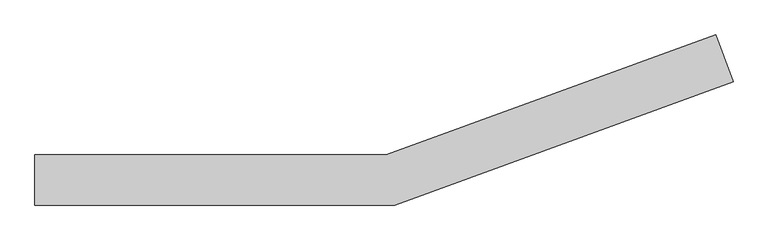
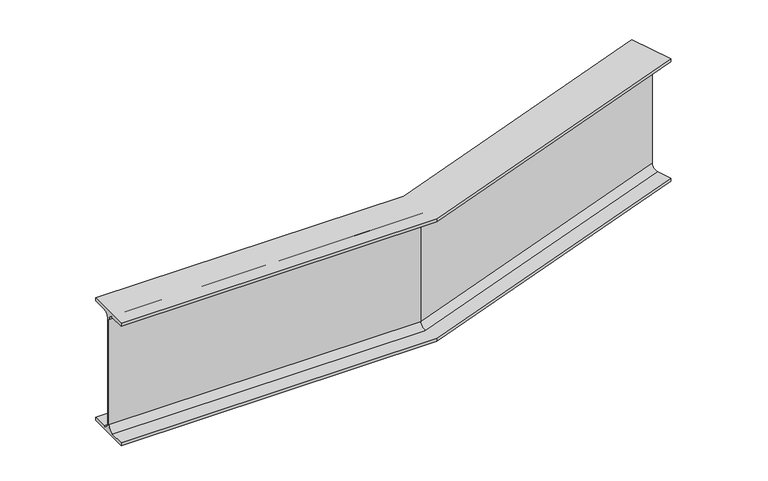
"""IFC4 building model written with IfcOpenShell, lengths in millimetres: beam geometry, Cranked Beam B3 : Cranked Beam B1."""

from ifc_helpers import new_model, si_unit, frame, origin, place, context, project, spatial, polyline, circle_curve, ellipse_curve, source, transform, mapped, element, save
from ifc_brep_helpers import plane_surface, revolved_surface, advanced_brep


def beam_fb4f222d(model_context):
    return source(origin(), model_context, "Body", "AdvancedBrep", [
        advanced_brep(
        [(30484.4500022, 15287.0000005, 11261.0), (30484.4500022, 15338.3000005, 11261.0), (30484.4500022, 15359.4000005, 11282.1), (30484.4500022, 15359.4000005, 11667.9), (30484.4500022, 15338.3000005, 11689.0), (30484.4500022, 15287.0000005, 11689.0), (30484.4500022, 15287.0000005, 11699.9), (30484.4500022, 15439.4000005, 11699.9), (30484.4500022, 15439.4000005, 11689.0), (30484.4500022, 15388.1000005, 11689.0), (30484.4500022, 15367.0000005, 11667.9), (30484.4500022, 15367.0000005, 11282.1), (30484.4500022, 15388.1000005, 11261.0), (30484.4500022, 15439.4000005, 11261.0), (30484.4500022, 15439.4000005, 11250.1), (30484.4500022, 15287.0000005, 11250.1), (31580.7314082, 15287.0000005, 11261.0), (32610.8989551, 15661.9503238, 11261.0), (32593.3533217, 15710.1565552, 11261.0), (31571.6858341, 15338.3000005, 11261.0), (31567.9653348, 15359.4000005, 11282.1), (31567.9653348, 15359.4000005, 11667.9), (31571.6858341, 15338.3000005, 11689.0), (32593.3533217, 15710.1565552, 11689.0), (32610.8989551, 15661.9503238, 11689.0), (31580.7314082, 15287.0000005, 11689.0), (31580.7314082, 15287.0000005, 11699.9), (32610.8989551, 15661.9503238, 11699.9), (32558.7750852, 15805.1594792, 11699.9), (31553.8591764, 15439.4000005, 11699.9), (31553.8591764, 15439.4000005, 11689.0), (32558.7750852, 15805.1594792, 11689.0), (32576.3207186, 15756.9532478, 11689.0), (31562.9047505, 15388.1000005, 11689.0), (31566.6252498, 15367.0000005, 11667.9), (31566.6252498, 15367.0000005, 11282.1), (31562.9047505, 15388.1000005, 11261.0), (32576.3207186, 15756.9532478, 11261.0), (32558.7750852, 15805.1594792, 11261.0), (31553.8591764, 15439.4000005, 11261.0), (31553.8591764, 15439.4000005, 11250.1), (32558.7750852, 15805.1594792, 11250.1), (32610.8989551, 15661.9503238, 11250.1), (31580.7314082, 15287.0000005, 11250.1), (32583.5373436, 15737.1257335, 11282.1), (32583.5373436, 15737.1257335, 11667.9), (32586.1366967, 15729.9840695, 11667.9), (32586.1366967, 15729.9840695, 11282.1)],
        [
            (0, 1),
            (1, 2, circle_curve(frame((30484.4500022, 15338.3000005, 11282.1), z_axis=(1.0, 0.0, 0.0), x_axis=(0.0, 1.0, 0.0)), 21.1)),
            (2, 3),
            (3, 4, circle_curve(frame((30484.4500022, 15338.3000005, 11667.9), z_axis=(1.0, 0.0, 0.0), x_axis=(0.0, 1.0, 0.0)), 21.1)),
            (4, 5),
            (5, 6),
            (6, 7),
            (7, 8),
            (8, 9),
            (9, 10, circle_curve(frame((30484.4500022, 15388.1000005, 11667.9), z_axis=(1.0, 0.0, 0.0), x_axis=(0.0, 1.0, 0.0)), 21.1)),
            (10, 11),
            (11, 12, circle_curve(frame((30484.4500022, 15388.1000005, 11282.1), z_axis=(1.0, 0.0, 0.0), x_axis=(0.0, 1.0, 0.0)), 21.1)),
            (12, 13),
            (13, 14),
            (14, 15),
            (15, 0),
            (0, 16),
            (16, 17),
            (17, 18),
            (18, 19),
            (19, 1),
            (19, 20, ellipse_curve(frame((31571.6858341, 15338.3000005, 11282.1), z_axis=(0.9848077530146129, 0.17364817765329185, 0.0), x_axis=(0.17364817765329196, -0.984807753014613, 0.0)), 21.4255015, 21.1)),
            (20, 2),
            (20, 21),
            (21, 3),
            (21, 22, ellipse_curve(frame((31571.6858341, 15338.3000005, 11667.9), z_axis=(0.9848077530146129, 0.17364817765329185, 0.0), x_axis=(0.17364817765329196, -0.984807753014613, 0.0)), 21.4255015, 21.1)),
            (22, 4),
            (22, 23),
            (23, 24),
            (24, 25),
            (25, 5),
            (25, 26),
            (26, 6),
            (26, 27),
            (27, 28),
            (28, 29),
            (29, 7),
            (29, 30),
            (30, 8),
            (30, 31),
            (31, 32),
            (32, 33),
            (33, 9),
            (33, 34, ellipse_curve(frame((31562.9047505, 15388.1000005, 11667.9), z_axis=(0.9848077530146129, 0.17364817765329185, 0.0), x_axis=(0.17364817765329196, -0.984807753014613, 0.0)), 21.4255015, 21.1)),
            (34, 10),
            (34, 35),
            (35, 11),
            (35, 36, ellipse_curve(frame((31562.9047505, 15388.1000005, 11282.1), z_axis=(0.9848077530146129, 0.17364817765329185, 0.0), x_axis=(0.17364817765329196, -0.984807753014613, 0.0)), 21.4255015, 21.1)),
            (36, 12),
            (36, 37),
            (37, 38),
            (38, 39),
            (39, 13),
            (39, 40),
            (40, 14),
            (40, 41),
            (41, 42),
            (42, 43),
            (43, 15),
            (43, 16),
            (17, 42),
            (41, 38),
            (37, 44, circle_curve(frame((32576.3207186, 15756.9532478, 11282.1), z_axis=(-0.9396926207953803, -0.34202014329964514, 0.0), x_axis=(-0.34202014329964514, 0.9396926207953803, 0.0)), 21.1)),
            (44, 45),
            (45, 32, circle_curve(frame((32576.3207186, 15756.9532478, 11667.9), z_axis=(-0.9396926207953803, -0.34202014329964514, 0.0), x_axis=(-0.34202014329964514, 0.9396926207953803, 0.0)), 21.1)),
            (31, 28),
            (27, 24),
            (23, 46, circle_curve(frame((32593.3533217, 15710.1565552, 11667.9), z_axis=(-0.9396926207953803, -0.34202014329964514, 0.0), x_axis=(-0.34202014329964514, 0.9396926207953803, 0.0)), 21.1)),
            (46, 47),
            (47, 18, circle_curve(frame((32593.3533217, 15710.1565552, 11282.1), z_axis=(-0.9396926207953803, -0.34202014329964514, 0.0), x_axis=(-0.34202014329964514, 0.9396926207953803, 0.0)), 21.1)),
            (47, 20),
            (46, 21),
            (45, 34),
            (44, 35),
        ],
        [
            plane_surface(frame((30484.4500022, 15363.2000005, 11700.0), z_axis=(-1.0, 0.0, 0.0), x_axis=(0.0, 0.0, 1.0))),
            plane_surface(frame((30484.4500022, 15287.0000005, 11261.0), z_axis=(0.0, 0.0, 1.0), x_axis=(1.0, 0.0, 0.0))),
            revolved_surface(polyline([(31575.406333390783, 15359.4000005, 11282.1), (30484.4500022, 15359.4000005, 11282.1)]), (30484.4500022, 15338.3000005, 11282.1), (1.0, 0.0, 0.0)),
            plane_surface(frame((30484.4500022, 15359.4000005, 11282.1), z_axis=(0.0, -1.0, 0.0), x_axis=(1.0, 0.0, 0.0))),
            revolved_surface(polyline([(31575.406333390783, 15359.4000005, 11667.9), (30484.4500022, 15359.4000005, 11667.9)]), (30484.4500022, 15338.3000005, 11667.9), (1.0, 0.0, 0.0)),
            plane_surface(frame((30484.4500022, 15338.3000005, 11689.0), z_axis=(0.0, 0.0, -1.0), x_axis=(1.0, 0.0, 0.0))),
            plane_surface(frame((30484.4500022, 15287.0000005, 11689.0), z_axis=(0.0, -1.0, 0.0), x_axis=(1.0, 0.0, 0.0))),
            plane_surface(frame((30484.4500022, 15287.0000005, 11699.9), z_axis=(0.0, 0.0, 1.0), x_axis=(1.0, 0.0, 0.0))),
            plane_surface(frame((30484.4500022, 15439.4000005, 11699.9), z_axis=(0.0, 1.0, 0.0), x_axis=(1.0, 0.0, 0.0))),
            plane_surface(frame((30484.4500022, 15439.4000005, 11689.0), z_axis=(0.0, 0.0, -1.0), x_axis=(1.0, 0.0, 0.0))),
            revolved_surface(polyline([(31566.6252498, 15409.2000005, 11667.9), (30484.4500022, 15409.2000005, 11667.9)]), (30484.4500022, 15388.1000005, 11667.9), (1.0, 0.0, 0.0)),
            plane_surface(frame((30484.4500022, 15367.0000005, 11667.9), z_axis=(0.0, 1.0, 0.0), x_axis=(1.0, 0.0, 0.0))),
            revolved_surface(polyline([(31566.6252498, 15409.2000005, 11282.1), (30484.4500022, 15409.2000005, 11282.1)]), (30484.4500022, 15388.1000005, 11282.1), (1.0, 0.0, 0.0)),
            plane_surface(frame((30484.4500022, 15388.1000005, 11261.0), z_axis=(0.0, 0.0, 1.0), x_axis=(1.0, 0.0, 0.0))),
            plane_surface(frame((30484.4500022, 15439.4000005, 11261.0), z_axis=(0.0, 1.0, 0.0), x_axis=(1.0, 0.0, 0.0))),
            plane_surface(frame((30484.4500022, 15439.4000005, 11250.1), z_axis=(0.0, 0.0, -1.0), x_axis=(1.0, 0.0, 0.0))),
            plane_surface(frame((30484.4500022, 15287.0000005, 11250.1), z_axis=(0.0, -1.0, 0.0), x_axis=(1.0, 0.0, 0.0))),
            plane_surface(frame((32584.8370201, 15733.5549015, 11700.0), z_axis=(0.9396926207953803, 0.34202014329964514, 0.0), x_axis=(0.0, 0.0, 1.0))),
            revolved_surface(polyline([(32586.136696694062, 15729.98406951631, 11282.1), (31560.973083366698, 15356.855029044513, 11282.1)]), (31575.8115939, 15339.8016542, 11282.1), (0.9396926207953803, 0.34202014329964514, 0.0)),
            plane_surface(frame((31567.9653348, 15359.4000005, 11282.1), z_axis=(0.34202014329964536, -0.9396926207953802, 0.0), x_axis=(0.9396926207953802, 0.34202014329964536, 0.0))),
            revolved_surface(polyline([(32586.136696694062, 15729.98406951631, 11667.9), (31560.973083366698, 15356.855029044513, 11667.9)]), (31575.8115939, 15339.8016542, 11667.9), (0.9396926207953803, 0.34202014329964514, 0.0)),
            plane_surface(frame((31580.7314082, 15287.0000005, 11689.0), z_axis=(0.3420201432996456, -0.9396926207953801, 0.0), x_axis=(0.9396926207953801, 0.3420201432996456, 0.0))),
            plane_surface(frame((31553.8591764, 15439.4000005, 11699.9), z_axis=(-0.34202014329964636, 0.9396926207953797, 0.0), x_axis=(0.9396926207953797, 0.34202014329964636, 0.0))),
            revolved_surface(polyline([(32569.104093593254, 15776.780762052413, 11667.9), (31552.191999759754, 15406.655029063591, 11667.9)]), (31558.7789907, 15386.5983467, 11667.9), (0.9396926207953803, 0.34202014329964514, 0.0)),
            plane_surface(frame((31566.6252498, 15367.0000005, 11667.9), z_axis=(-0.3420201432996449, 0.9396926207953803, 0.0), x_axis=(0.9396926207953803, 0.3420201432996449, 0.0))),
            revolved_surface(polyline([(32569.104093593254, 15776.780762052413, 11282.1), (31552.191999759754, 15406.655029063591, 11282.1)]), (31558.7789907, 15386.5983467, 11282.1), (0.9396926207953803, 0.34202014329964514, 0.0)),
            plane_surface(frame((31553.8591764, 15439.4000005, 11261.0), z_axis=(-0.34202014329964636, 0.9396926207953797, 0.0), x_axis=(0.9396926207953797, 0.34202014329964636, 0.0))),
            plane_surface(frame((31580.7314082, 15287.0000005, 11250.1), z_axis=(0.3420201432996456, -0.9396926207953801, 0.0), x_axis=(0.9396926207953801, 0.3420201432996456, 0.0))),
        ],
        [
            (0, [[1, 2, 3, 4, 5, 6, 7, 8, 9, 10, 11, 12, 13, 14, 15, 16]]),
            (1, [[-1, 17, 18, 19, 20, 21]]),
            (2, [[-2, -21, 22, 23]]),
            (3, [[-3, -23, 24, 25]]),
            (4, [[-4, -25, 26, 27]]),
            (5, [[-5, -27, 28, 29, 30, 31]]),
            (6, [[-6, -31, 32, 33]]),
            (7, [[-7, -33, 34, 35, 36, 37]]),
            (8, [[-8, -37, 38, 39]]),
            (9, [[-9, -39, 40, 41, 42, 43]]),
            (10, [[-10, -43, 44, 45]]),
            (11, [[-11, -45, 46, 47]]),
            (12, [[-12, -47, 48, 49]]),
            (13, [[-13, -49, 50, 51, 52, 53]]),
            (14, [[-14, -53, 54, 55]]),
            (15, [[-15, -55, 56, 57, 58, 59]]),
            (16, [[-16, -59, 60, -17]]),
            (17, [[61, -57, 62, -51, 63, 64, 65, -41, 66, -35, 67, -29, 68, 69, 70, -19]]),
            (18, [[-22, -20, -70, 71]]),
            (19, [[-24, -71, -69, 72]]),
            (20, [[-26, -72, -68, -28]]),
            (21, [[-32, -30, -67, -34]]),
            (22, [[-38, -36, -66, -40]]),
            (23, [[-44, -42, -65, 73]]),
            (24, [[-46, -73, -64, 74]]),
            (25, [[-48, -74, -63, -50]]),
            (26, [[-54, -52, -62, -56]]),
            (27, [[-60, -58, -61, -18]]),
        ],
    ),
    ])


if __name__ == "__main__":
    model = new_model("IFC4")
    model_context = context("Model", 3, world=origin())
    ifc_project = project(units=[si_unit("LENGTHUNIT", "METRE", prefix="MILLI")], contexts=[model_context])
    site = spatial("IfcSite", under=ifc_project)
    building = spatial("IfcBuilding", under=site)
    placement = place(None, origin())
    beam_shape = beam_fb4f222d(model_context)
    element("IfcBeam", 1, ObjectType="Cranked Beam B3 : Cranked Beam B1", at=placement, inside=building, context=model_context, shape_type="MappedRepresentation", body=[
        mapped(beam_shape, transform((0.0, 0.0, 0.0), x_axis=(1.0, 0.0, 0.0), y_axis=(0.0, 1.0, 0.0), z_axis=(0.0, 0.0, 1.0))),
    ])
    save(model, "model.ifc")
